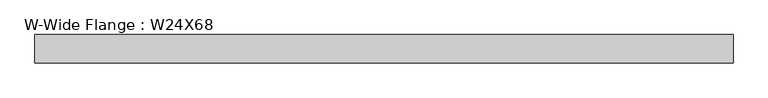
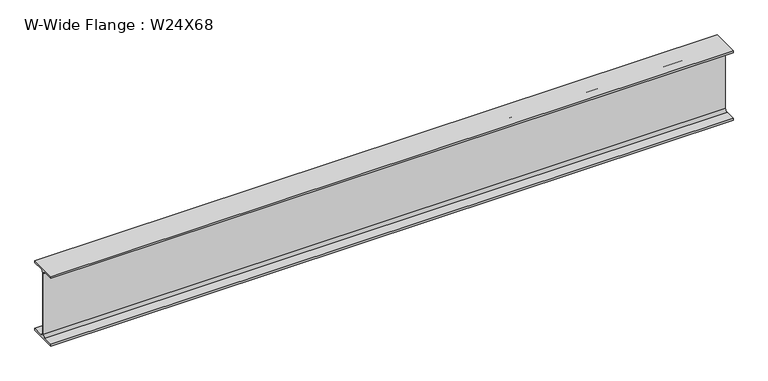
"""IFC4 building model written with IfcOpenShell, lengths in millimetres: beam geometry, W-Wide Flange : W24X68."""

from ifc_helpers import new_model, si_unit, point, frame, frame_2d, origin, place, context, project, spatial, polyline, circle_curve, trimmed, segment, composite_curve, outline, extrude, source, transform, mapped, element, save


def w_wide_flange_w24x68_59e872bf(model_context):
    return source(origin(), model_context, "Body", "SweptSolid", [
        extrude(outline(composite_curve([segment(polyline([(113.919, -286.131), (113.919, -300.99), (-113.919, -300.99), (-113.919, -286.131), (-28.5115, -286.131)]), True, "CONTINUOUS"), segment(trimmed(circle_curve(frame_2d((-28.5115, -262.89)), 23.241), [point((-28.5115, -286.131))], [point((-5.2705, -262.89))], True, "CARTESIAN"), True, "CONTINUOUS"), segment(polyline([(-5.2705, -262.89), (-5.2705, 262.89)]), True, "CONTINUOUS"), segment(trimmed(circle_curve(frame_2d((-28.5115, 262.89)), 23.241), [point((-5.2705, 262.89))], [point((-28.5115, 286.131))], True, "CARTESIAN"), True, "CONTINUOUS"), segment(polyline([(-28.5115, 286.131), (-113.919, 286.131), (-113.919, 300.99), (113.919, 300.99), (113.919, 286.131), (28.5115, 286.131)]), True, "CONTINUOUS"), segment(trimmed(circle_curve(frame_2d((28.5115, 262.89)), 23.241), [point((28.5115, 286.131))], [point((5.2705, 262.89))], True, "CARTESIAN"), True, "CONTINUOUS"), segment(polyline([(5.2705, 262.89), (5.2705, -262.89)]), True, "CONTINUOUS"), segment(trimmed(circle_curve(frame_2d((28.5115, -262.89)), 23.241), [point((5.2705, -262.89))], [point((28.5115, -286.131))], True, "CARTESIAN"), True, "CONTINUOUS"), segment(polyline([(28.5115, -286.131), (113.919, -286.131)]), True, "CONTINUOUS")], self_intersect=False)), frame((-2724.15, 0.0, 0.0), z_axis=(1.0, 0.0, 0.0), x_axis=(0.0, 1.0, 0.0)), (0.0, 0.0, 1.0), 5605.78),
    ])


if __name__ == "__main__":
    model = new_model("IFC4")
    model_context = context("Model", 3, world=origin())
    ifc_project = project(units=[si_unit("LENGTHUNIT", "METRE", prefix="MILLI")], contexts=[model_context])
    site = spatial("IfcSite", under=ifc_project)
    building = spatial("IfcBuilding", under=site)
    placement = place(None, origin())
    w_wide_flange_w24x68_shape = w_wide_flange_w24x68_59e872bf(model_context)
    element("IfcBeam", 1, ObjectType="W-Wide Flange : W24X68", at=placement, inside=building, context=model_context, shape_type="MappedRepresentation", body=[
        mapped(w_wide_flange_w24x68_shape, transform((0.0, 0.0, 0.0), x_axis=(1.0, 0.0, 0.0), y_axis=(0.0, 1.0, 0.0), z_axis=(0.0, 0.0, 1.0))),
    ])
    save(model, "model.ifc")
